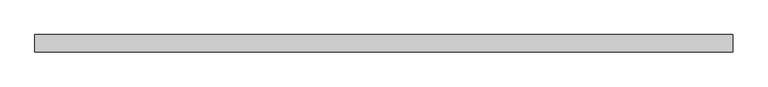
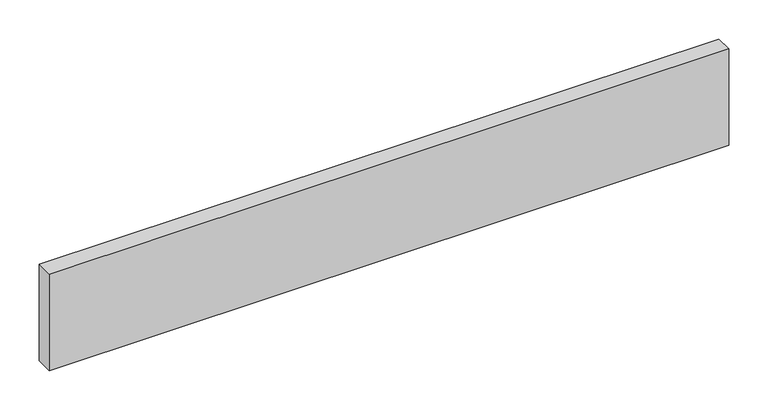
"""IFC4 building model written with IfcOpenShell, lengths in millimetres: plate geometry, Системная панель : С остеклением."""

from ifc_helpers import new_model, si_unit, origin, origin_with_axes, place, context, project, spatial, polyline, outline, extrude, source, transform, mapped, element, save


def plate_760f9ff4(model_context):
    return source(origin(), model_context, "Body", "SweptSolid", [
        extrude(outline(polyline([(500.0, 24.5), (-500.0, 24.5), (-500.0, 49.5), (500.0, 49.5), (500.0, 24.5)])), origin_with_axes(), (0.0, 0.0, 1.0), 150.0),
    ])


if __name__ == "__main__":
    model = new_model("IFC4")
    model_context = context("Model", 3, world=origin())
    ifc_project = project(units=[si_unit("LENGTHUNIT", "METRE", prefix="MILLI")], contexts=[model_context])
    site = spatial("IfcSite", under=ifc_project)
    building = spatial("IfcBuilding", under=site)
    placement = place(None, origin())
    plate_shape = plate_760f9ff4(model_context)
    element("IfcPlate", 1, ObjectType="Системная панель : С остеклением", at=placement, inside=building, context=model_context, shape_type="MappedRepresentation", body=[
        mapped(plate_shape, transform((0.0, 0.0, 0.0), x_axis=(1.0, 0.0, 0.0), y_axis=(0.0, 1.0, 0.0), z_axis=(0.0, 0.0, 1.0))),
    ])
    save(model, "model.ifc")
